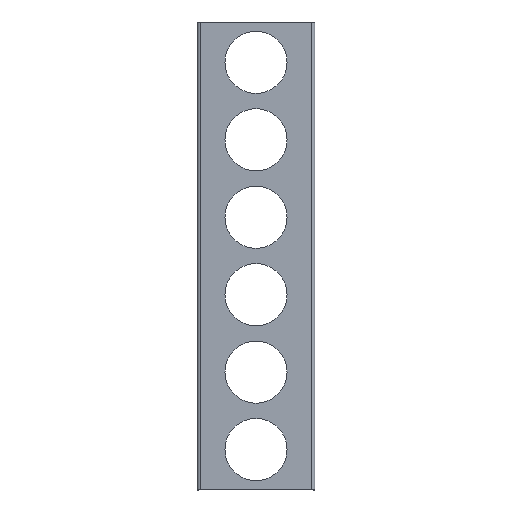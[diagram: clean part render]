
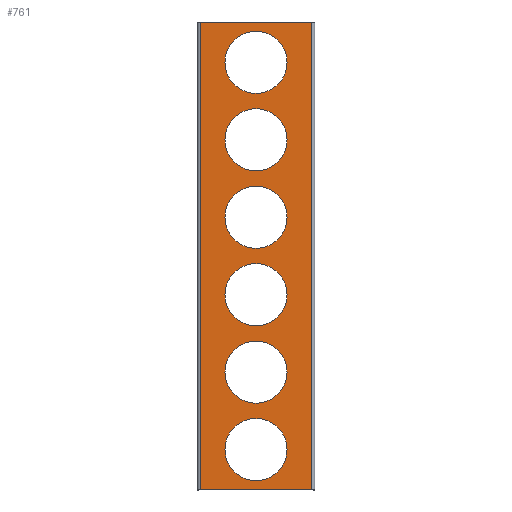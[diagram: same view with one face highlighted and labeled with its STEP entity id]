
A CAD part, top view. The second image highlights one B-rep face of the part: STEP entity #761.
In plain terms, the highlighted planar face has unit normal (0, 0, 1).
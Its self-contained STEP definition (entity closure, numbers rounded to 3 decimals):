
#17 = CARTESIAN_POINT ( 'NONE',  ( 28.5, 250., 40. ) ) ;
#28 = CARTESIAN_POINT ( 'NONE',  ( -51., 0., 40. ) ) ;
#29 = CARTESIAN_POINT ( 'NONE',  ( -28.5, 250., 40. ) ) ;
#50 = VERTEX_POINT ( 'NONE', #331 ) ;
#59 = CARTESIAN_POINT ( 'NONE',  ( 28.5, 321., 40. ) ) ;
#63 = CARTESIAN_POINT ( 'NONE',  ( -28.5, 37., 40. ) ) ;
#64 = DIRECTION ( 'NONE',  ( 0., -1., 0. ) ) ;
#65 = CARTESIAN_POINT ( 'NONE',  ( -51., 479., 40. ) ) ;
#66 = DIRECTION ( 'NONE',  ( 1., 0., 0. ) ) ;
#67 = DIRECTION ( 'NONE',  ( 0., 0., -1. ) ) ;
#69 = DIRECTION ( 'NONE',  ( 1., 0., 0. ) ) ;
#70 = DIRECTION ( 'NONE',  ( 0., 0., -1. ) ) ;
#72 = DIRECTION ( 'NONE',  ( 1., 0., 0. ) ) ;
#73 = CARTESIAN_POINT ( 'NONE',  ( 28.5, 179., 40. ) ) ;
#74 = DIRECTION ( 'NONE',  ( 0., 0., -1. ) ) ;
#76 = CARTESIAN_POINT ( 'NONE',  ( 0., 108., 40. ) ) ;
#77 = DIRECTION ( 'NONE',  ( 1., 0., 0. ) ) ;
#78 = DIRECTION ( 'NONE',  ( 0., 0., -1. ) ) ;
#81 = CARTESIAN_POINT ( 'NONE',  ( 0., 250., 40. ) ) ;
#82 = DIRECTION ( 'NONE',  ( 1., 0., 0. ) ) ;
#83 = DIRECTION ( 'NONE',  ( 0., 0., -1. ) ) ;
#84 = CARTESIAN_POINT ( 'NONE',  ( 0., 392., 40. ) ) ;
#85 = DIRECTION ( 'NONE',  ( 1., 0., 0. ) ) ;
#86 = DIRECTION ( 'NONE',  ( 0., 0., -1. ) ) ;
#88 = CARTESIAN_POINT ( 'NONE',  ( 0., 321., 40. ) ) ;
#91 = CARTESIAN_POINT ( 'NONE',  ( -28.5, 108., 40. ) ) ;
#94 = DIRECTION ( 'NONE',  ( 0., 1., 0. ) ) ;
#95 = CARTESIAN_POINT ( 'NONE',  ( 51., 0., 40. ) ) ;
#98 = CARTESIAN_POINT ( 'NONE',  ( 0., 179., 40. ) ) ;
#100 = CARTESIAN_POINT ( 'NONE',  ( -28.5, 392., 40. ) ) ;
#102 = DIRECTION ( 'NONE',  ( 1., 0., 0. ) ) ;
#103 = DIRECTION ( 'NONE',  ( 0., 0., -1. ) ) ;
#104 = CARTESIAN_POINT ( 'NONE',  ( 0., 321., 40. ) ) ;
#105 = DIRECTION ( 'NONE',  ( -1., 0., 0. ) ) ;
#106 = CARTESIAN_POINT ( 'NONE',  ( -48., 429., 40. ) ) ;
#113 = CARTESIAN_POINT ( 'NONE',  ( 0., 37., 40. ) ) ;
#121 = CARTESIAN_POINT ( 'NONE',  ( -51., 429., 40. ) ) ;
#136 = CARTESIAN_POINT ( 'NONE',  ( 28.5, 392., 40. ) ) ;
#142 = CARTESIAN_POINT ( 'NONE',  ( 51., 0., 40. ) ) ;
#160 = CARTESIAN_POINT ( 'NONE',  ( 51., 429., 40. ) ) ;
#167 = CARTESIAN_POINT ( 'NONE',  ( 28.5, 108., 40. ) ) ;
#169 = CARTESIAN_POINT ( 'NONE',  ( -28.5, 179., 40. ) ) ;
#171 = CARTESIAN_POINT ( 'NONE',  ( -28.5, 321., 40. ) ) ;
#174 = DIRECTION ( 'NONE',  ( -1., 0., 0. ) ) ;
#176 = CARTESIAN_POINT ( 'NONE',  ( -47., 0., 40. ) ) ;
#179 = VERTEX_POINT ( 'NONE', #17 ) ;
#182 = VERTEX_POINT ( 'NONE', #160 ) ;
#195 = VERTEX_POINT ( 'NONE', #167 ) ;
#196 = VERTEX_POINT ( 'NONE', #169 ) ;
#200 = VERTEX_POINT ( 'NONE', #171 ) ;
#215 = VERTEX_POINT ( 'NONE', #142 ) ;
#217 = DIRECTION ( 'NONE',  ( 1., 0., 0. ) ) ;
#218 = DIRECTION ( 'NONE',  ( 0., 0., -1. ) ) ;
#220 = CARTESIAN_POINT ( 'NONE',  ( 0., 179., 40. ) ) ;
#223 = DIRECTION ( 'NONE',  ( 1., 0., 0. ) ) ;
#224 = DIRECTION ( 'NONE',  ( 0., 0., -1. ) ) ;
#225 = CARTESIAN_POINT ( 'NONE',  ( 0., 37., 40. ) ) ;
#226 = VERTEX_POINT ( 'NONE', #136 ) ;
#234 = VERTEX_POINT ( 'NONE', #121 ) ;
#243 = DIRECTION ( 'NONE',  ( 1., 0., 0. ) ) ;
#244 = DIRECTION ( 'NONE',  ( 0., 0., -1. ) ) ;
#246 = CARTESIAN_POINT ( 'NONE',  ( 0., 392., 40. ) ) ;
#258 = VERTEX_POINT ( 'NONE', #100 ) ;
#261 = DIRECTION ( 'NONE',  ( 1., 0., 0. ) ) ;
#262 = DIRECTION ( 'NONE',  ( 0., 0., -1. ) ) ;
#264 = VERTEX_POINT ( 'NONE', #91 ) ;
#266 = CARTESIAN_POINT ( 'NONE',  ( 0., 250., 40. ) ) ;
#276 = DIRECTION ( 'NONE',  ( 1., 0., 0. ) ) ;
#277 = DIRECTION ( 'NONE',  ( 0., 0., -1. ) ) ;
#280 = CARTESIAN_POINT ( 'NONE',  ( 0., 108., 40. ) ) ;
#286 = VERTEX_POINT ( 'NONE', #73 ) ;
#287 = VERTEX_POINT ( 'NONE', #63 ) ;
#291 = VERTEX_POINT ( 'NONE', #59 ) ;
#331 = CARTESIAN_POINT ( 'NONE',  ( 28.5, 37., 40. ) ) ;
#352 = DIRECTION ( 'NONE',  ( 1., 0., 0. ) ) ;
#353 = DIRECTION ( 'NONE',  ( 0., 0., 1. ) ) ;
#354 = PLANE ( 'NONE',  #843 ) ;
#355 = CARTESIAN_POINT ( 'NONE',  ( 2., 239.5, 40. ) ) ;
#369 = VERTEX_POINT ( 'NONE', #29 ) ;
#376 = VERTEX_POINT ( 'NONE', #28 ) ;
#393 = VECTOR ( 'NONE', #64, 1000. ) ;
#395 = CIRCLE ( 'NONE', #805, 28.5 ) ;
#396 = VECTOR ( 'NONE', #94, 1000. ) ;
#397 = LINE ( 'NONE', #95, #396 ) ;
#399 = VECTOR ( 'NONE', #105, 1000. ) ;
#401 = LINE ( 'NONE', #106, #399 ) ;
#403 = ORIENTED_EDGE ( 'NONE', *, *, #898, .T. ) ;
#444 = VECTOR ( 'NONE', #174, 1000. ) ;
#445 = LINE ( 'NONE', #176, #444 ) ;
#463 = CIRCLE ( 'NONE', #821, 28.5 ) ;
#467 = CIRCLE ( 'NONE', #822, 28.5 ) ;
#468 = ORIENTED_EDGE ( 'NONE', *, *, #895, .T. ) ;
#469 = ORIENTED_EDGE ( 'NONE', *, *, #845, .T. ) ;
#481 = CIRCLE ( 'NONE', #824, 28.5 ) ;
#482 = ORIENTED_EDGE ( 'NONE', *, *, #875, .F. ) ;
#483 = ORIENTED_EDGE ( 'NONE', *, *, #896, .T. ) ;
#497 = CIRCLE ( 'NONE', #914, 28.5 ) ;
#505 = CIRCLE ( 'NONE', #868, 28.5 ) ;
#518 = CIRCLE ( 'NONE', #801, 28.5 ) ;
#521 = CIRCLE ( 'NONE', #799, 28.5 ) ;
#527 = ORIENTED_EDGE ( 'NONE', *, *, #902, .T. ) ;
#534 = LINE ( 'NONE', #65, #393 ) ;
#539 = CIRCLE ( 'NONE', #803, 28.5 ) ;
#543 = EDGE_LOOP ( 'NONE', ( #603, #527, #482, #468 ) ) ;
#549 = ORIENTED_EDGE ( 'NONE', *, *, #782, .T. ) ;
#555 = EDGE_LOOP ( 'NONE', ( #704, #483 ) ) ;
#560 = ORIENTED_EDGE ( 'NONE', *, *, #900, .T. ) ;
#561 = CIRCLE ( 'NONE', #802, 28.5 ) ;
#562 = FACE_BOUND ( 'NONE', #580, .T. ) ;
#565 = FACE_BOUND ( 'NONE', #633, .T. ) ;
#566 = FACE_OUTER_BOUND ( 'NONE', #543, .T. ) ;
#567 = FACE_BOUND ( 'NONE', #647, .T. ) ;
#570 = FACE_BOUND ( 'NONE', #720, .T. ) ;
#572 = FACE_BOUND ( 'NONE', #555, .T. ) ;
#573 = FACE_BOUND ( 'NONE', #619, .T. ) ;
#580 = EDGE_LOOP ( 'NONE', ( #717, #403 ) ) ;
#603 = ORIENTED_EDGE ( 'NONE', *, *, #892, .T. ) ;
#617 = ORIENTED_EDGE ( 'NONE', *, *, #786, .T. ) ;
#619 = EDGE_LOOP ( 'NONE', ( #549, #626 ) ) ;
#626 = ORIENTED_EDGE ( 'NONE', *, *, #901, .T. ) ;
#633 = EDGE_LOOP ( 'NONE', ( #469, #660 ) ) ;
#647 = EDGE_LOOP ( 'NONE', ( #617, #560 ) ) ;
#660 = ORIENTED_EDGE ( 'NONE', *, *, #899, .T. ) ;
#692 = ORIENTED_EDGE ( 'NONE', *, *, #897, .T. ) ;
#697 = ORIENTED_EDGE ( 'NONE', *, *, #862, .T. ) ;
#704 = ORIENTED_EDGE ( 'NONE', *, *, #861, .T. ) ;
#717 = ORIENTED_EDGE ( 'NONE', *, *, #893, .T. ) ;
#720 = EDGE_LOOP ( 'NONE', ( #697, #692 ) ) ;
#721 = CIRCLE ( 'NONE', #798, 28.5 ) ;
#728 = CIRCLE ( 'NONE', #797, 28.5 ) ;
#761 = ADVANCED_FACE ( 'NONE', ( #573, #567, #565, #562, #570, #572, #566 ), #354, .T. ) ;
#782 = EDGE_CURVE ( 'NONE', #195, #264, #505, .T. ) ;
#786 = EDGE_CURVE ( 'NONE', #179, #369, #497, .T. ) ;
#797 = AXIS2_PLACEMENT_3D ( 'NONE', #76, #67, #66 ) ;
#798 = AXIS2_PLACEMENT_3D ( 'NONE', #81, #70, #69 ) ;
#799 = AXIS2_PLACEMENT_3D ( 'NONE', #84, #74, #72 ) ;
#801 = AXIS2_PLACEMENT_3D ( 'NONE', #88, #78, #77 ) ;
#802 = AXIS2_PLACEMENT_3D ( 'NONE', #113, #86, #85 ) ;
#803 = AXIS2_PLACEMENT_3D ( 'NONE', #98, #83, #82 ) ;
#805 = AXIS2_PLACEMENT_3D ( 'NONE', #104, #103, #102 ) ;
#821 = AXIS2_PLACEMENT_3D ( 'NONE', #220, #218, #217 ) ;
#822 = AXIS2_PLACEMENT_3D ( 'NONE', #225, #224, #223 ) ;
#824 = AXIS2_PLACEMENT_3D ( 'NONE', #246, #244, #243 ) ;
#843 = AXIS2_PLACEMENT_3D ( 'NONE', #355, #353, #352 ) ;
#845 = EDGE_CURVE ( 'NONE', #226, #258, #481, .T. ) ;
#861 = EDGE_CURVE ( 'NONE', #50, #287, #467, .T. ) ;
#862 = EDGE_CURVE ( 'NONE', #286, #196, #463, .T. ) ;
#868 = AXIS2_PLACEMENT_3D ( 'NONE', #280, #277, #276 ) ;
#875 = EDGE_CURVE ( 'NONE', #215, #376, #445, .T. ) ;
#892 = EDGE_CURVE ( 'NONE', #182, #234, #401, .T. ) ;
#893 = EDGE_CURVE ( 'NONE', #291, #200, #395, .T. ) ;
#895 = EDGE_CURVE ( 'NONE', #215, #182, #397, .T. ) ;
#896 = EDGE_CURVE ( 'NONE', #287, #50, #561, .T. ) ;
#897 = EDGE_CURVE ( 'NONE', #196, #286, #539, .T. ) ;
#898 = EDGE_CURVE ( 'NONE', #200, #291, #518, .T. ) ;
#899 = EDGE_CURVE ( 'NONE', #258, #226, #521, .T. ) ;
#900 = EDGE_CURVE ( 'NONE', #369, #179, #721, .T. ) ;
#901 = EDGE_CURVE ( 'NONE', #264, #195, #728, .T. ) ;
#902 = EDGE_CURVE ( 'NONE', #234, #376, #534, .T. ) ;
#914 = AXIS2_PLACEMENT_3D ( 'NONE', #266, #262, #261 ) ;
